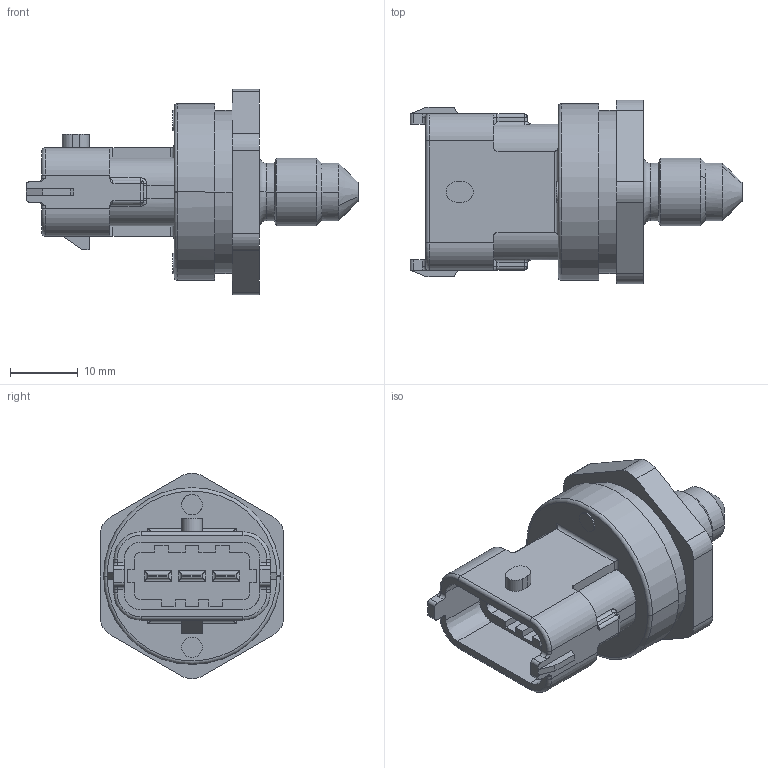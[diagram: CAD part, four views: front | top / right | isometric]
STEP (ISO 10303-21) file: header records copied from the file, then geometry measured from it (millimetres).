
FILE_DESCRIPTION(('CATIA V5 STEP Exchange'),'2;1');
FILE_NAME('\\bosch.com\dfsrb\DfsDE\DIV\BEG\MSD\Gruppen\MSDP\01_Austausch\!Limitierte Beschäftigte\Praktikanten\HnA\3D Modelle Katalog\Neu\Sensoren\Druck in Flüssigkeiten\PSS-260.stp','2014-01-17T08:11:12+00:00',('none'),('none'),'CATIA Version 5 Release 19 SP 9 (IN-10)','CATIA V5 STEP AP214','none');
FILE_SCHEMA(('AUTOMOTIVE_DESIGN { 1 0 10303 214 1 1 1 1 }'));
Length unit declared in the file: millimetre
Products named in the file (1): PSS-260
Bounding box: 48.85 x 27 x 30.25 mm (x, y, z)
Volume: 10140.8 mm3; surface area: 5505.5 mm2
Topology: 1 solids, 1 shells, 396 faces, 1041 edges, 666 vertices
Faces by surface type: plane 186, cylinder 143, extrusion 27, torus 22, sphere 8, cone 6, bspline 4
Entity records: 13395 total; most frequent: CARTESIAN_POINT 2937, ORIENTED_EDGE 2066, DIRECTION 1481, EDGE_CURVE 1033, VERTEX_POINT 666, VECTOR 638, LINE 611, AXIS2_PLACEMENT_3D 563
